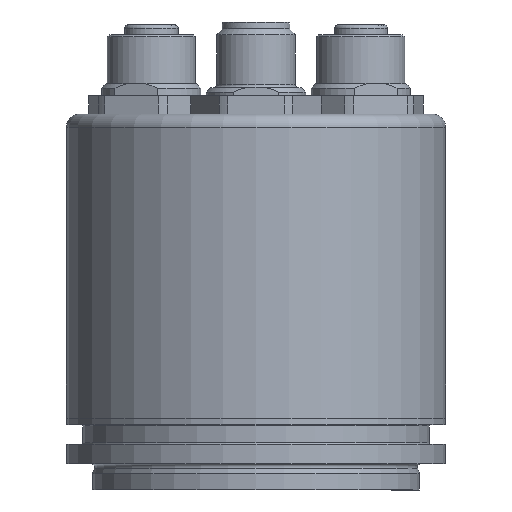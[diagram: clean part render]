
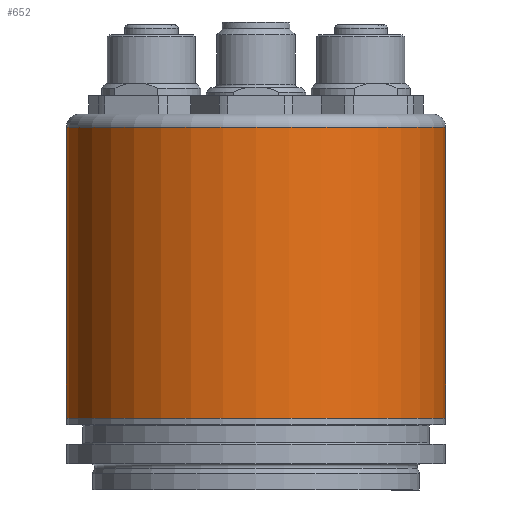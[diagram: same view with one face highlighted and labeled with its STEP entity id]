
A CAD part, front view. The second image highlights one B-rep face of the part: STEP entity #652.
In plain terms, the highlighted cylindrical face has radius 29 mm (diameter 58 mm), a full revolution.
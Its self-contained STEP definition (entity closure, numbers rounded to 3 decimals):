
#652 = ADVANCED_FACE( '', ( #1466, #1467 ), #1468, .T. );
#1466 = FACE_OUTER_BOUND( '', #2778, .T. );
#1467 = FACE_OUTER_BOUND( '', #2779, .T. );
#1468 = CYLINDRICAL_SURFACE( '', #2780, 29. );
#2778 = EDGE_LOOP( '', ( #4950 ) );
#2779 = EDGE_LOOP( '', ( #4951 ) );
#2780 = AXIS2_PLACEMENT_3D( '', #4952, #4953, #4954 );
#4950 = ORIENTED_EDGE( '', *, *, #7019, .F. );
#4951 = ORIENTED_EDGE( '', *, *, #7020, .T. );
#4952 = CARTESIAN_POINT( '', ( 0., 0., 46.6 ) );
#4953 = DIRECTION( '', ( 0., 0., -1. ) );
#4954 = DIRECTION( '', ( 1., 0., 0. ) );
#7019 = EDGE_CURVE( '', #8147, #8147, #8148, .T. );
#7020 = EDGE_CURVE( '', #8149, #8149, #8150, .T. );
#8147 = VERTEX_POINT( '', #9851 );
#8148 = CIRCLE( '', #9852, 29. );
#8149 = VERTEX_POINT( '', #9853 );
#8150 = CIRCLE( '', #9854, 29. );
#9851 = CARTESIAN_POINT( '', ( 29., 0., 44.5 ) );
#9852 = AXIS2_PLACEMENT_3D( '', #11944, #11945, #11946 );
#9853 = CARTESIAN_POINT( '', ( 29., 0., 0. ) );
#9854 = AXIS2_PLACEMENT_3D( '', #11947, #11948, #11949 );
#11944 = CARTESIAN_POINT( '', ( 0., 0., 44.5 ) );
#11945 = DIRECTION( '', ( 0., 0., 1. ) );
#11946 = DIRECTION( '', ( 1., 0., 0. ) );
#11947 = CARTESIAN_POINT( '', ( 0., 0., 0. ) );
#11948 = DIRECTION( '', ( 0., 0., 1. ) );
#11949 = DIRECTION( '', ( 1., 0., 0. ) );
